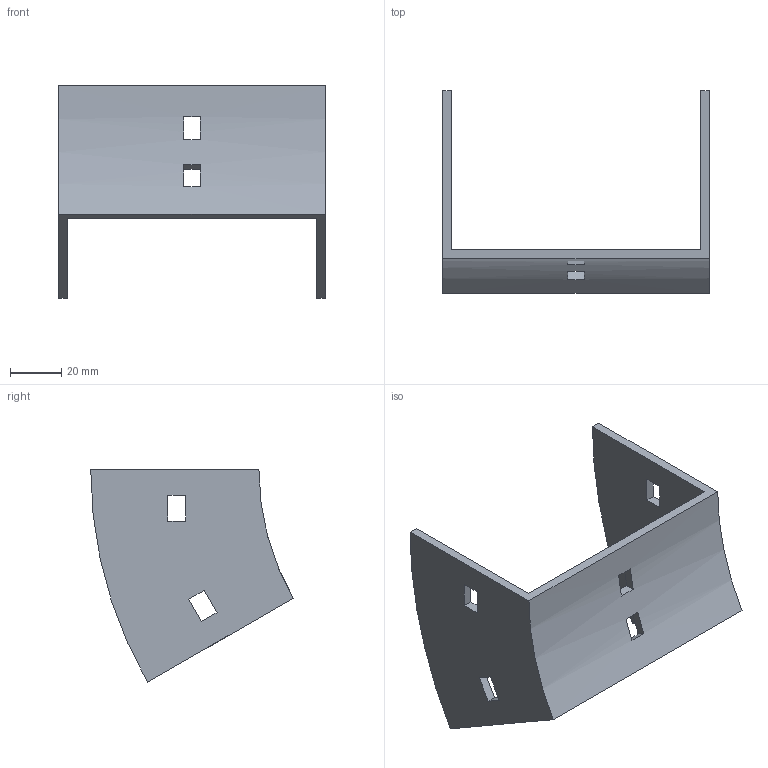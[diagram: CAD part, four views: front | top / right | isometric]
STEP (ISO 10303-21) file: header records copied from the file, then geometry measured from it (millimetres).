
FILE_DESCRIPTION (( 'STEP AP214' ), '1' );
FILE_NAME ('35B1H100.step', '2025-02-21T09:25:51', ( '' ), ( '' ), 'SwSTEP 2.0', 'SolidWorks 2023', '' );
FILE_SCHEMA (( 'AUTOMOTIVE_DESIGN' ));
Length unit declared in the file: millimetre
Products named in the file (1): 35B1H100
Bounding box: 104 x 78.9 x 82.75 mm (x, y, z)
Volume: 48561.4 mm3; surface area: 30641.6 mm2
Topology: 1 solids, 1 shells, 34 faces, 96 edges, 64 vertices
Faces by surface type: plane 30, cylinder 4
Entity records: 1143 total; most frequent: CARTESIAN_POINT 195, ORIENTED_EDGE 192, DIRECTION 182, EDGE_CURVE 96, VECTOR 80, LINE 80, VERTEX_POINT 64, AXIS2_PLACEMENT_3D 51
